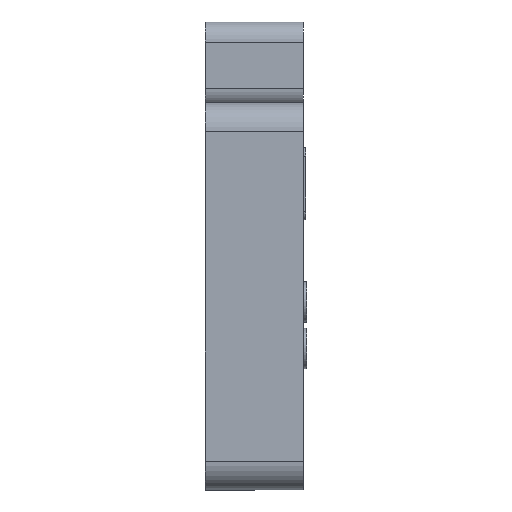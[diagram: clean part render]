
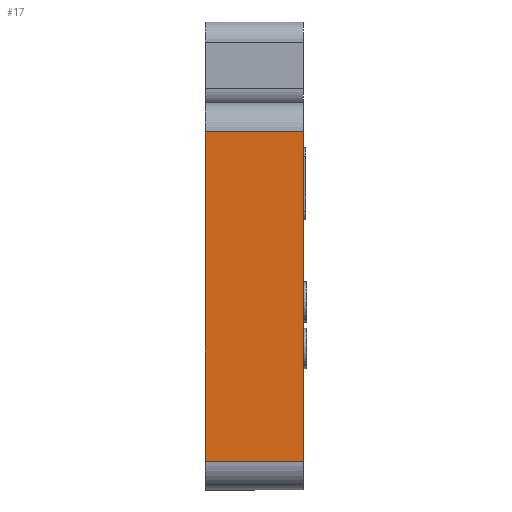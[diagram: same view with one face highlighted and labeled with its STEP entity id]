
A CAD part, left-side view. The second image highlights one B-rep face of the part: STEP entity #17.
In plain terms, the highlighted planar face has unit normal (-1, 0, 0).
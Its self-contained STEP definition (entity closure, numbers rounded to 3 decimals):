
#17 = ADVANCED_FACE('',(#18),#32,.T.);
#18 = FACE_BOUND('',#19,.T.);
#19 = EDGE_LOOP('',(#20,#55,#83,#111));
#20 = ORIENTED_EDGE('',*,*,#21,.T.);
#21 = EDGE_CURVE('',#22,#24,#26,.T.);
#22 = VERTEX_POINT('',#23);
#23 = CARTESIAN_POINT('',(-50.,17.,10.));
#24 = VERTEX_POINT('',#25);
#25 = CARTESIAN_POINT('',(-50.,-17.,10.));
#26 = SURFACE_CURVE('',#27,(#31,#43),.PCURVE_S1.);
#27 = LINE('',#28,#29);
#28 = CARTESIAN_POINT('',(-50.,17.,10.));
#29 = VECTOR('',#30,1.);
#30 = DIRECTION('',(0.,-1.,0.));
#31 = PCURVE('',#32,#37);
#32 = PLANE('',#33);
#33 = AXIS2_PLACEMENT_3D('',#34,#35,#36);
#34 = CARTESIAN_POINT('',(-50.,17.,10.));
#35 = DIRECTION('',(-1.,0.,0.));
#36 = DIRECTION('',(0.,0.,1.));
#37 = DEFINITIONAL_REPRESENTATION('',(#38),#42);
#38 = LINE('',#39,#40);
#39 = CARTESIAN_POINT('',(0.,0.));
#40 = VECTOR('',#41,1.);
#41 = DIRECTION('',(0.,-1.));
#42 = ( GEOMETRIC_REPRESENTATION_CONTEXT(2) 
PARAMETRIC_REPRESENTATION_CONTEXT() REPRESENTATION_CONTEXT('2D SPACE',''
  ) );
#43 = PCURVE('',#44,#49);
#44 = CYLINDRICAL_SURFACE('',#45,10.);
#45 = AXIS2_PLACEMENT_3D('',#46,#47,#48);
#46 = CARTESIAN_POINT('',(-40.,17.,10.));
#47 = DIRECTION('',(0.,1.,0.));
#48 = DIRECTION('',(1.,0.,0.));
#49 = DEFINITIONAL_REPRESENTATION('',(#50),#54);
#50 = LINE('',#51,#52);
#51 = CARTESIAN_POINT('',(-3.142,0.));
#52 = VECTOR('',#53,1.);
#53 = DIRECTION('',(-0.,-1.));
#54 = ( GEOMETRIC_REPRESENTATION_CONTEXT(2) 
PARAMETRIC_REPRESENTATION_CONTEXT() REPRESENTATION_CONTEXT('2D SPACE',''
  ) );
#55 = ORIENTED_EDGE('',*,*,#56,.T.);
#56 = EDGE_CURVE('',#24,#57,#59,.T.);
#57 = VERTEX_POINT('',#58);
#58 = CARTESIAN_POINT('',(-50.,-17.,124.));
#59 = SURFACE_CURVE('',#60,(#64,#71),.PCURVE_S1.);
#60 = LINE('',#61,#62);
#61 = CARTESIAN_POINT('',(-50.,-17.,67.));
#62 = VECTOR('',#63,1.);
#63 = DIRECTION('',(0.,0.,1.));
#64 = PCURVE('',#32,#65);
#65 = DEFINITIONAL_REPRESENTATION('',(#66),#70);
#66 = LINE('',#67,#68);
#67 = CARTESIAN_POINT('',(57.,-34.));
#68 = VECTOR('',#69,1.);
#69 = DIRECTION('',(1.,0.));
#70 = ( GEOMETRIC_REPRESENTATION_CONTEXT(2) 
PARAMETRIC_REPRESENTATION_CONTEXT() REPRESENTATION_CONTEXT('2D SPACE',''
  ) );
#71 = PCURVE('',#72,#77);
#72 = PLANE('',#73);
#73 = AXIS2_PLACEMENT_3D('',#74,#75,#76);
#74 = CARTESIAN_POINT('',(0.,-17.,67.));
#75 = DIRECTION('',(0.,-1.,0.));
#76 = DIRECTION('',(1.,0.,0.));
#77 = DEFINITIONAL_REPRESENTATION('',(#78),#82);
#78 = LINE('',#79,#80);
#79 = CARTESIAN_POINT('',(-50.,0.));
#80 = VECTOR('',#81,1.);
#81 = DIRECTION('',(0.,1.));
#82 = ( GEOMETRIC_REPRESENTATION_CONTEXT(2) 
PARAMETRIC_REPRESENTATION_CONTEXT() REPRESENTATION_CONTEXT('2D SPACE',''
  ) );
#83 = ORIENTED_EDGE('',*,*,#84,.F.);
#84 = EDGE_CURVE('',#85,#57,#87,.T.);
#85 = VERTEX_POINT('',#86);
#86 = CARTESIAN_POINT('',(-50.,17.,124.));
#87 = SURFACE_CURVE('',#88,(#92,#99),.PCURVE_S1.);
#88 = LINE('',#89,#90);
#89 = CARTESIAN_POINT('',(-50.,17.,124.));
#90 = VECTOR('',#91,1.);
#91 = DIRECTION('',(0.,-1.,0.));
#92 = PCURVE('',#32,#93);
#93 = DEFINITIONAL_REPRESENTATION('',(#94),#98);
#94 = LINE('',#95,#96);
#95 = CARTESIAN_POINT('',(114.,0.));
#96 = VECTOR('',#97,1.);
#97 = DIRECTION('',(0.,-1.));
#98 = ( GEOMETRIC_REPRESENTATION_CONTEXT(2) 
PARAMETRIC_REPRESENTATION_CONTEXT() REPRESENTATION_CONTEXT('2D SPACE',''
  ) );
#99 = PCURVE('',#100,#105);
#100 = CYLINDRICAL_SURFACE('',#101,10.);
#101 = AXIS2_PLACEMENT_3D('',#102,#103,#104);
#102 = CARTESIAN_POINT('',(-40.,17.,124.));
#103 = DIRECTION('',(0.,1.,0.));
#104 = DIRECTION('',(1.,0.,0.));
#105 = DEFINITIONAL_REPRESENTATION('',(#106),#110);
#106 = LINE('',#107,#108);
#107 = CARTESIAN_POINT('',(-3.142,0.));
#108 = VECTOR('',#109,1.);
#109 = DIRECTION('',(-0.,-1.));
#110 = ( GEOMETRIC_REPRESENTATION_CONTEXT(2) 
PARAMETRIC_REPRESENTATION_CONTEXT() REPRESENTATION_CONTEXT('2D SPACE',''
  ) );
#111 = ORIENTED_EDGE('',*,*,#112,.F.);
#112 = EDGE_CURVE('',#22,#85,#113,.T.);
#113 = SURFACE_CURVE('',#114,(#118,#125),.PCURVE_S1.);
#114 = LINE('',#115,#116);
#115 = CARTESIAN_POINT('',(-50.,17.,67.));
#116 = VECTOR('',#117,1.);
#117 = DIRECTION('',(0.,0.,1.));
#118 = PCURVE('',#32,#119);
#119 = DEFINITIONAL_REPRESENTATION('',(#120),#124);
#120 = LINE('',#121,#122);
#121 = CARTESIAN_POINT('',(57.,0.));
#122 = VECTOR('',#123,1.);
#123 = DIRECTION('',(1.,0.));
#124 = ( GEOMETRIC_REPRESENTATION_CONTEXT(2) 
PARAMETRIC_REPRESENTATION_CONTEXT() REPRESENTATION_CONTEXT('2D SPACE',''
  ) );
#125 = PCURVE('',#126,#131);
#126 = PLANE('',#127);
#127 = AXIS2_PLACEMENT_3D('',#128,#129,#130);
#128 = CARTESIAN_POINT('',(0.,17.,67.));
#129 = DIRECTION('',(0.,-1.,0.));
#130 = DIRECTION('',(1.,0.,0.));
#131 = DEFINITIONAL_REPRESENTATION('',(#132),#136);
#132 = LINE('',#133,#134);
#133 = CARTESIAN_POINT('',(-50.,0.));
#134 = VECTOR('',#135,1.);
#135 = DIRECTION('',(0.,1.));
#136 = ( GEOMETRIC_REPRESENTATION_CONTEXT(2) 
PARAMETRIC_REPRESENTATION_CONTEXT() REPRESENTATION_CONTEXT('2D SPACE',''
  ) );
